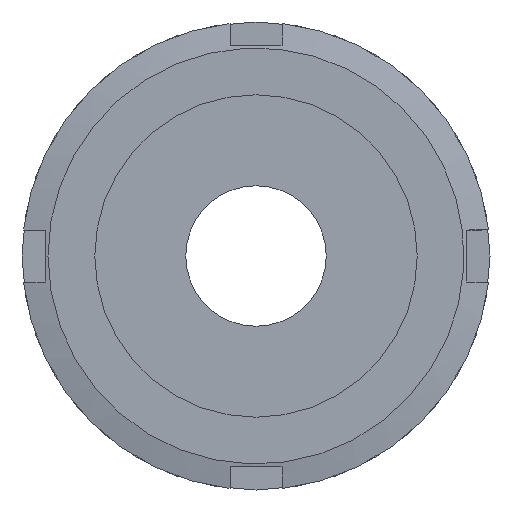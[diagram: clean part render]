
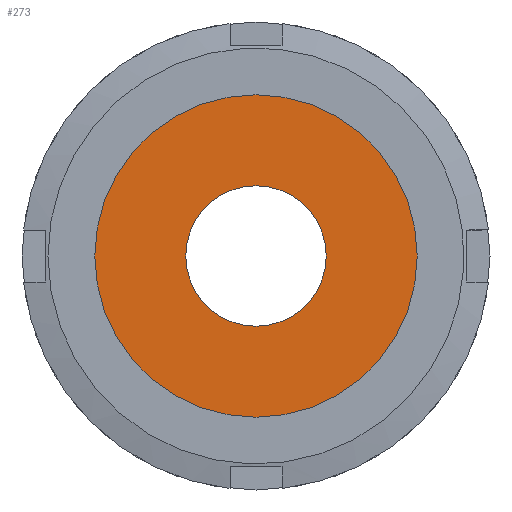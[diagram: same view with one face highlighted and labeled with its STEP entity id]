
A CAD part, left-side view. The second image highlights one B-rep face of the part: STEP entity #273.
In plain terms, the highlighted planar face has unit normal (-1, 0, 0) as drawn and (0, -1, 0) by its records, which use the part's own axes.
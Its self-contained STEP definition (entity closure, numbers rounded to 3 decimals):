
#273 = ADVANCED_FACE( '', ( #402, #403 ), #404, .T. );
#402 = FACE_OUTER_BOUND( '', #610, .T. );
#403 = FACE_BOUND( '', #611, .T. );
#404 = PLANE( '', #612 );
#610 = EDGE_LOOP( '', ( #961 ) );
#611 = EDGE_LOOP( '', ( #962 ) );
#612 = AXIS2_PLACEMENT_3D( '', #963, #964, #965 );
#961 = ORIENTED_EDGE( '', *, *, #1422, .T. );
#962 = ORIENTED_EDGE( '', *, *, #1423, .F. );
#963 = CARTESIAN_POINT( '', ( 6.75, 0., 0. ) );
#964 = DIRECTION( '', ( 0., -1., 0. ) );
#965 = DIRECTION( '', ( 0., 0., -1. ) );
#1422 = EDGE_CURVE( '', #1649, #1649, #1650, .T. );
#1423 = EDGE_CURVE( '', #1651, #1651, #1652, .T. );
#1649 = VERTEX_POINT( '', #2105 );
#1650 = CIRCLE( '', #2106, 15.5 );
#1651 = VERTEX_POINT( '', #2107 );
#1652 = CIRCLE( '', #2108, 6.75 );
#2105 = CARTESIAN_POINT( '', ( 0., 0., -15.5 ) );
#2106 = AXIS2_PLACEMENT_3D( '', #2580, #2581, #2582 );
#2107 = CARTESIAN_POINT( '', ( 0., 0., -6.75 ) );
#2108 = AXIS2_PLACEMENT_3D( '', #2583, #2584, #2585 );
#2580 = CARTESIAN_POINT( '', ( 0., 0., 0. ) );
#2581 = DIRECTION( '', ( 0., -1., 0. ) );
#2582 = DIRECTION( '', ( 0., 0., -1. ) );
#2583 = CARTESIAN_POINT( '', ( 0., 0., 0. ) );
#2584 = DIRECTION( '', ( 0., -1., 0. ) );
#2585 = DIRECTION( '', ( 0., 0., -1. ) );
